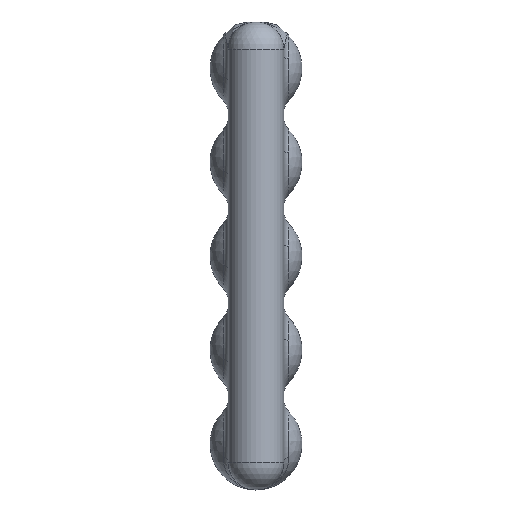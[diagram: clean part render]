
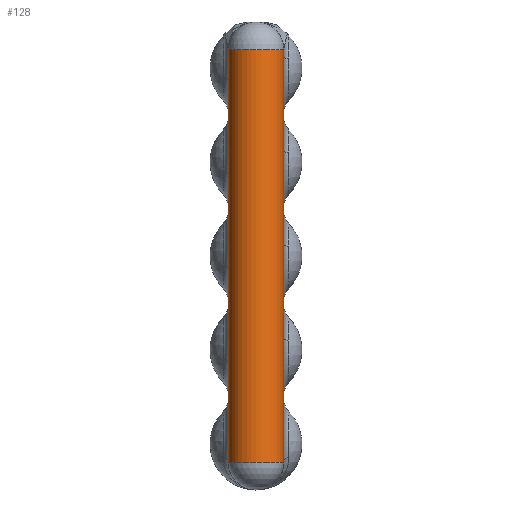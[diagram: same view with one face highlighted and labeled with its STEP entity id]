
A CAD part, top view. The second image highlights one B-rep face of the part: STEP entity #128.
In plain terms, the highlighted cylindrical face has radius 0.75 mm (diameter 1.5 mm), a partial arc.
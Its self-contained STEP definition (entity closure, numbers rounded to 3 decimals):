
#128=ADVANCED_FACE('',(#335),#336,.T.);
#335=FACE_OUTER_BOUND('',#954,.T.);
#336=CYLINDRICAL_SURFACE('',#955,0.75);
#954=EDGE_LOOP('',(#1795,#1796,#1797,#1798));
#955=AXIS2_PLACEMENT_3D('',#1799,#1800,#1801);
#1795=ORIENTED_EDGE('',*,*,#2516,.F.);
#1796=ORIENTED_EDGE('',*,*,#2517,.F.);
#1797=ORIENTED_EDGE('',*,*,#2474,.T.);
#1798=ORIENTED_EDGE('',*,*,#2518,.T.);
#1799=CARTESIAN_POINT('',(0.0,0.0,2.195));
#1800=DIRECTION('',(-0.0,-1.0,0.0));
#1801=DIRECTION('',(-1.0,0.0,0.0));
#2474=EDGE_CURVE('',#3375,#3394,#3395,.T.);
#2516=EDGE_CURVE('',#3267,#3402,#3452,.T.);
#2517=EDGE_CURVE('',#3375,#3267,#3453,.T.);
#2518=EDGE_CURVE('',#3394,#3402,#3454,.T.);
#3267=VERTEX_POINT('',#4059);
#3375=VERTEX_POINT('',#4286);
#3394=VERTEX_POINT('',#4315);
#3395=LINE('',#4316,#4317);
#3402=VERTEX_POINT('',#4325);
#3452=LINE('',#4474,#4475);
#3453=CIRCLE('',#4476,0.75);
#3454=CIRCLE('',#4477,0.75);
#4059=CARTESIAN_POINT('',(-0.75,0.75,2.195));
#4286=CARTESIAN_POINT('',(0.75,0.75,2.195));
#4315=CARTESIAN_POINT('',(0.75,11.9,2.195));
#4316=CARTESIAN_POINT('',(0.75,0.75,2.195));
#4317=VECTOR('',#5261,11.15);
#4325=CARTESIAN_POINT('',(-0.75,11.9,2.195));
#4474=CARTESIAN_POINT('',(-0.75,0.75,2.195));
#4475=VECTOR('',#5328,11.15);
#4476=AXIS2_PLACEMENT_3D('',#5329,#5330,#5331);
#4477=AXIS2_PLACEMENT_3D('',#5332,#5333,#5334);
#5261=DIRECTION('',(0.0,1.0,0.));
#5328=DIRECTION('',(0.0,1.0,0.));
#5329=CARTESIAN_POINT('',(0.0,0.75,2.195));
#5330=DIRECTION('',(0.0,-1.0,0.0));
#5331=DIRECTION('',(1.0,0.0,0.0));
#5332=CARTESIAN_POINT('',(0.0,11.9,2.195));
#5333=DIRECTION('',(0.0,-1.0,0.0));
#5334=DIRECTION('',(1.0,0.0,0.0));
